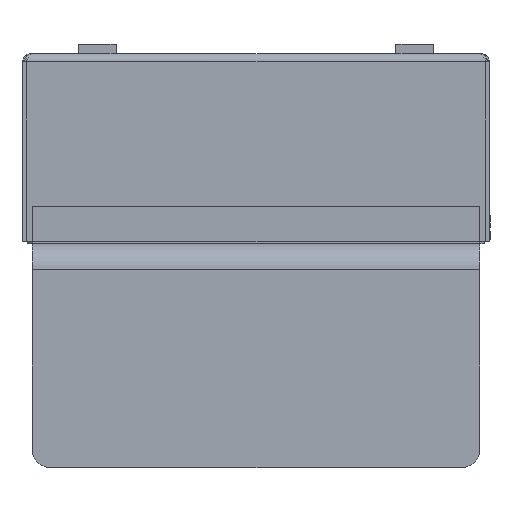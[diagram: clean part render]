
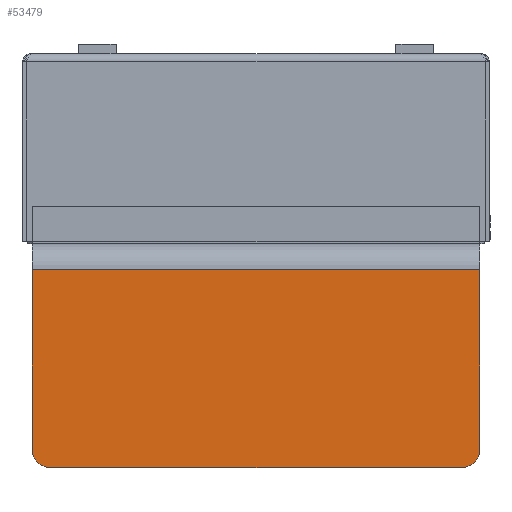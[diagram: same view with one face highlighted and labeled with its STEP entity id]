
A CAD part, front view. The second image highlights one B-rep face of the part: STEP entity #53479.
In plain terms, the highlighted planar face has unit normal (0, -1, 0).
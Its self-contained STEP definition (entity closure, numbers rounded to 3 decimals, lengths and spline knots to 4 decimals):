
#1608 = CARTESIAN_POINT ( 'NONE',  ( 2.75, -9.1563, -5.3 ) ) ;
#1718 = VECTOR ( 'NONE', #67155, 39.3701 ) ;
#4982 = DIRECTION ( 'NONE',  ( 0., 1., 0. ) ) ;
#5016 = CARTESIAN_POINT ( 'NONE',  ( -2.75, -9.1563, -5.55 ) ) ;
#7721 = EDGE_LOOP ( 'NONE', ( #52875, #56000, #51320, #24313, #33700, #34166 ) ) ;
#10154 = DIRECTION ( 'NONE',  ( 1., 0., 0. ) ) ;
#12345 = DIRECTION ( 'NONE',  ( 0., -1., 0. ) ) ;
#22587 = EDGE_CURVE ( 'NONE', #74238, #65495, #91048, .T. ) ;
#22709 = VECTOR ( 'NONE', #69811, 39.3701 ) ;
#22735 = CARTESIAN_POINT ( 'NONE',  ( -3., -9.1563, -5.55 ) ) ;
#23598 = CARTESIAN_POINT ( 'NONE',  ( -3., -9.1563, -2.898 ) ) ;
#24076 = VERTEX_POINT ( 'NONE', #23598 ) ;
#24313 = ORIENTED_EDGE ( 'NONE', *, *, #100309, .T. ) ;
#33700 = ORIENTED_EDGE ( 'NONE', *, *, #52458, .F. ) ;
#34014 = LINE ( 'NONE', #22735, #79465 ) ;
#34166 = ORIENTED_EDGE ( 'NONE', *, *, #36269, .T. ) ;
#36269 = EDGE_CURVE ( 'NONE', #106795, #50131, #88150, .T. ) ;
#36457 = DIRECTION ( 'NONE',  ( 0., 0., 1. ) ) ;
#36508 = VERTEX_POINT ( 'NONE', #102698 ) ;
#37334 = AXIS2_PLACEMENT_3D ( 'NONE', #1608, #61444, #10154 ) ;
#39051 = CARTESIAN_POINT ( 'NONE',  ( -3., -9.1563, -2.55 ) ) ;
#43693 = EDGE_CURVE ( 'NONE', #50131, #36508, #34014, .T. ) ;
#45469 = LINE ( 'NONE', #61236, #22709 ) ;
#50131 = VERTEX_POINT ( 'NONE', #5016 ) ;
#51320 = ORIENTED_EDGE ( 'NONE', *, *, #22587, .T. ) ;
#51338 = CARTESIAN_POINT ( 'NONE',  ( 3., -9.1563, -5.3 ) ) ;
#52458 = EDGE_CURVE ( 'NONE', #106795, #24076, #45469, .T. ) ;
#52875 = ORIENTED_EDGE ( 'NONE', *, *, #43693, .T. ) ;
#53479 = ADVANCED_FACE ( 'NONE', ( #93208 ), #107402, .F. ) ;
#56000 = ORIENTED_EDGE ( 'NONE', *, *, #93689, .T. ) ;
#61236 = CARTESIAN_POINT ( 'NONE',  ( -3., -9.1563, -2.55 ) ) ;
#61444 = DIRECTION ( 'NONE',  ( 0., -1., 0. ) ) ;
#62246 = CARTESIAN_POINT ( 'NONE',  ( 3., -9.1563, -2.55 ) ) ;
#62628 = CIRCLE ( 'NONE', #37334, 0.25 ) ;
#63620 = CARTESIAN_POINT ( 'NONE',  ( -2.75, -9.1563, -5.3 ) ) ;
#64861 = DIRECTION ( 'NONE',  ( 1., 0., 0. ) ) ;
#65495 = VERTEX_POINT ( 'NONE', #71129 ) ;
#67155 = DIRECTION ( 'NONE',  ( -1., 0., 0. ) ) ;
#69811 = DIRECTION ( 'NONE',  ( 0., 0., 1. ) ) ;
#69939 = LINE ( 'NONE', #75725, #1718 ) ;
#71129 = CARTESIAN_POINT ( 'NONE',  ( 3., -9.1563, -2.898 ) ) ;
#72157 = DIRECTION ( 'NONE',  ( 1., 0., 0. ) ) ;
#74238 = VERTEX_POINT ( 'NONE', #51338 ) ;
#74475 = AXIS2_PLACEMENT_3D ( 'NONE', #39051, #4982, #64861 ) ;
#75725 = CARTESIAN_POINT ( 'NONE',  ( 3., -9.1563, -2.898 ) ) ;
#77230 = CARTESIAN_POINT ( 'NONE',  ( -3., -9.1563, -5.3 ) ) ;
#79465 = VECTOR ( 'NONE', #82551, 39.3701 ) ;
#80295 = VECTOR ( 'NONE', #36457, 39.3701 ) ;
#82551 = DIRECTION ( 'NONE',  ( 1., 0., 0. ) ) ;
#88150 = CIRCLE ( 'NONE', #97341, 0.25 ) ;
#91048 = LINE ( 'NONE', #62246, #80295 ) ;
#93208 = FACE_OUTER_BOUND ( 'NONE', #7721, .T. ) ;
#93689 = EDGE_CURVE ( 'NONE', #36508, #74238, #62628, .T. ) ;
#97341 = AXIS2_PLACEMENT_3D ( 'NONE', #63620, #12345, #72157 ) ;
#100309 = EDGE_CURVE ( 'NONE', #65495, #24076, #69939, .T. ) ;
#102698 = CARTESIAN_POINT ( 'NONE',  ( 2.75, -9.1563, -5.55 ) ) ;
#106795 = VERTEX_POINT ( 'NONE', #77230 ) ;
#107402 = PLANE ( 'NONE',  #74475 ) ;
